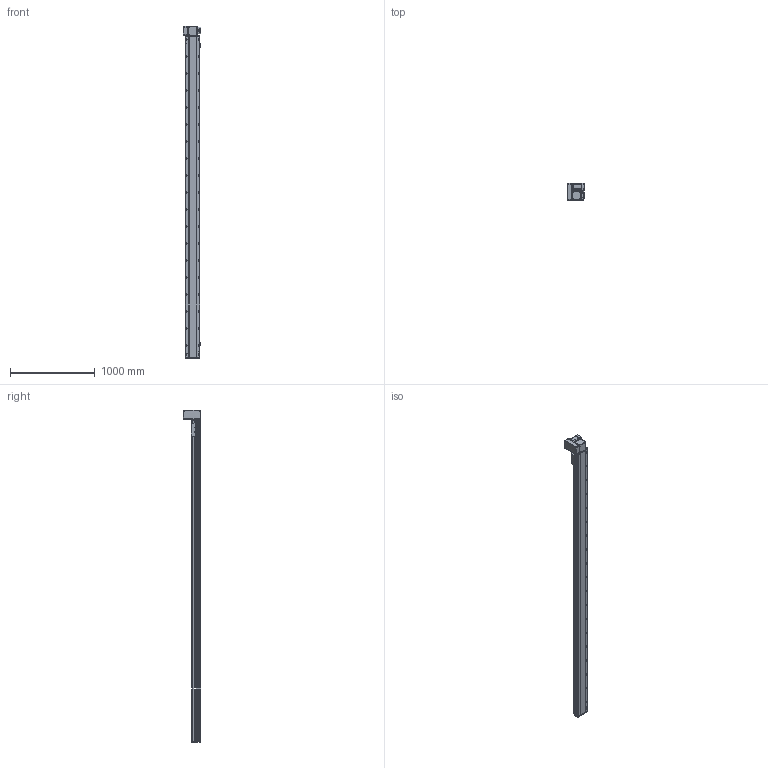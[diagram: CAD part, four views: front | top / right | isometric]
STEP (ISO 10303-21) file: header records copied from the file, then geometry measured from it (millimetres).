
FILE_DESCRIPTION (( 'STEP AP214' ), '1' );
FILE_NAME ('RTB17S-XX-3500-LW-M75-C4.STEP', '2025-12-12T01:22:58', ( '' ), ( '' ), 'SwSTEP 2.0', 'SolidWorks 2018', '' );
FILE_SCHEMA (( 'AUTOMOTIVE_DESIGN' ));
Length unit declared in the file: millimetre
Products named in the file (15): RTB22S-GY-017P^RTB17S-LW-々湍釱蚾饜-750W_RTB17S-XX-XX-LW-M75-C4; RTB17S-LW-々湍釱蚾饜-750W^RTB17S-XX-XX-LW-M75-C4; RTB17S-L-014-T20-P75--々湍釱^RTB17S-LW-々湍釱蚾饜-750W_RTB17S-XX-XX-LW-M75-C4; RTB17S-賑釱^RTB17S-XX-XX-LW-M75-C4; RTB17-R-011菁釱^RTB17S-XX-XX-LW-M75-C4; RTB22S-GY-005P^RTB17S-LW-々湍釱蚾饜-750W_RTB17S-XX-XX-LW-M75-C4; RTH13-BL-012覜茼え俋离^RTB17S-賑釱_RTB17S-XX-XX-LW-M75-C4; RTB17S-L-007奻裔^RTB17S-XX-XX-LW-M75-C4; RTB17S-L-004-賑釱^RTB17S-賑釱_RTB17S-XX-XX-LW-M75-C4; RTB22S-GY-008-M75--萇儂啣^RTB17S-LW-々湍釱蚾饜-750W_RTB17S-XX-XX-LW-M75-C4; RTB17S-L-001-耜醱啣^RTB17S-XX-XX-LW-M75-C4; RTB17S-XX-3500-LW-M75-C4; EE672^RTB17S-XX-XX-LW-M75-C4; RTB22S-GY-018P^RTB17S-LW-々湍釱蚾饜-750W_RTB17S-XX-XX-LW-M75-C4; 750W萇儂^RTB17S-XX-XX-LW-M75-C4
Assembly tree (17 placements, depth 3):
  RTB17S-XX-3500-LW-M75-C4
    RTB17-R-011菁釱^RTB17S-XX-XX-LW-M75-C4
    EE672^RTB17S-XX-XX-LW-M75-C4  x3
    RTB17S-L-001-耜醱啣^RTB17S-XX-XX-LW-M75-C4
    RTB17S-賑釱^RTB17S-XX-XX-LW-M75-C4
      RTB17S-L-004-賑釱^RTB17S-賑釱_RTB17S-XX-XX-LW-M75-C4
      RTH13-BL-012覜茼え俋离^RTB17S-賑釱_RTB17S-XX-XX-LW-M75-C4
    RTB17S-L-007奻裔^RTB17S-XX-XX-LW-M75-C4
    750W萇儂^RTB17S-XX-XX-LW-M75-C4
    RTB17S-LW-々湍釱蚾饜-750W^RTB17S-XX-XX-LW-M75-C4
      RTB17S-L-014-T20-P75--々湍釱^RTB17S-LW-々湍釱蚾饜-750W_RTB17S-XX-XX-LW-M75-C4
      RTB22S-GY-005P^RTB17S-LW-々湍釱蚾饜-750W_RTB17S-XX-XX-LW-M75-C4
      RTB22S-GY-017P^RTB17S-LW-々湍釱蚾饜-750W_RTB17S-XX-XX-LW-M75-C4  x2
      RTB22S-GY-008-M75--萇儂啣^RTB17S-LW-々湍釱蚾饜-750W_RTB17S-XX-XX-LW-M75-C4
      RTB22S-GY-018P^RTB17S-LW-々湍釱蚾饜-750W_RTB17S-XX-XX-LW-M75-C4
Bounding box: 210.4 x 201.5 x 3907.5 mm (x, y, z)
Volume: 27826415.1 mm3; surface area: 5142641.4 mm2
Topology: 17 solids, 17 shells, 2297 faces, 6484 edges, 4202 vertices
Faces by surface type: plane 996, cylinder 885, bspline 294, cone 110, sphere 8, torus 4
Entity records: 68086 total; most frequent: CARTESIAN_POINT 20348, ORIENTED_EDGE 9812, DIRECTION 9032, EDGE_CURVE 4906, AXIS2_PLACEMENT_3D 3222, VERTEX_POINT 3206, VECTOR 2588, LINE 2588
